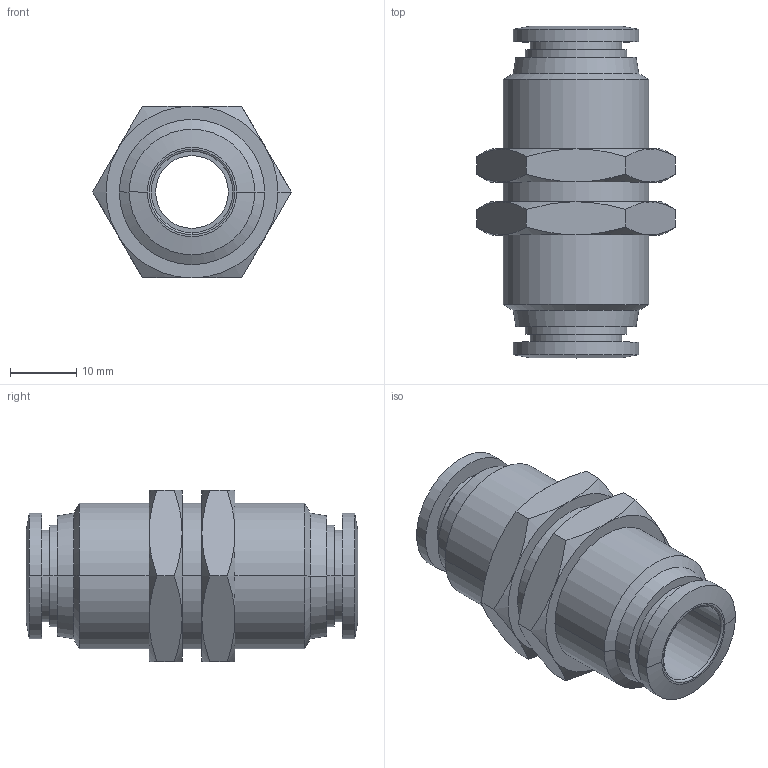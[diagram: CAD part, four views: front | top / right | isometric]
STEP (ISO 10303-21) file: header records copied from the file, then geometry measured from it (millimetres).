
FILE_DESCRIPTION (( 'STEP AP203' ), '1' );
FILE_NAME ('FE12-00.STEP', '2020-05-12T14:04:20', ( '' ), ( '' ), 'SwSTEP 2.0', 'SolidWorks 2019', '' );
FILE_SCHEMA (( 'CONFIG_CONTROL_DESIGN' ));
Length unit declared in the file: millimetre
Products named in the file (1): FE12-00
Bounding box: 30.02 x 50.2 x 26 mm (x, y, z)
Volume: 13107.4 mm3; surface area: 6999.9 mm2
Topology: 1 solids, 1 shells, 94 faces, 200 edges, 120 vertices
Faces by surface type: cone 40, plane 26, cylinder 24, torus 4
Entity records: 2557 total; most frequent: CARTESIAN_POINT 511, DIRECTION 442, ORIENTED_EDGE 400, EDGE_CURVE 200, AXIS2_PLACEMENT_3D 195, VERTEX_POINT 120, EDGE_LOOP 108, CIRCLE 100
